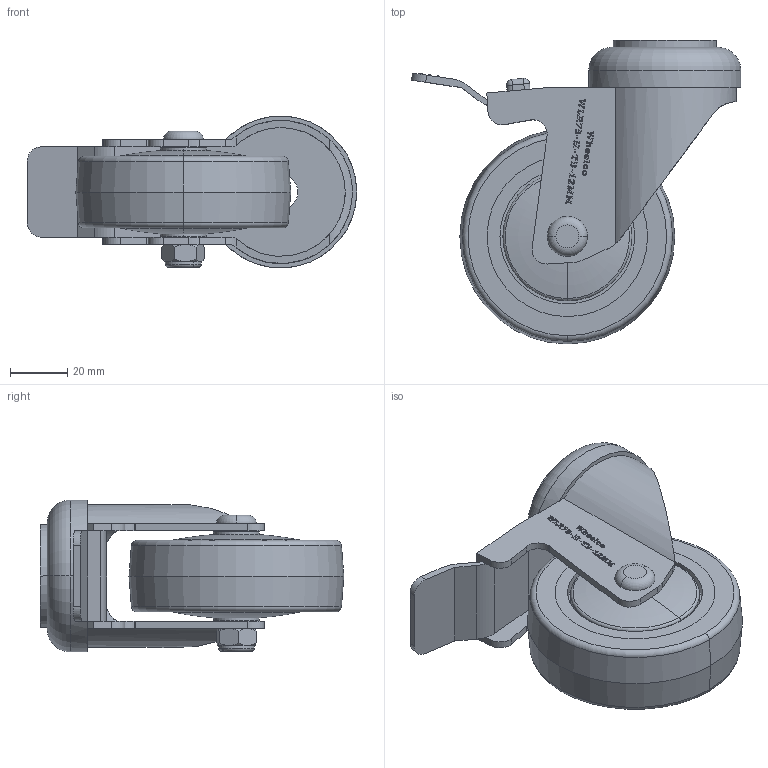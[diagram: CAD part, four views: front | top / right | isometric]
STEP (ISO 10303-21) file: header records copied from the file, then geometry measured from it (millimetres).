
FILE_DESCRIPTION (( 'STEP AP214' ), '1' );
FILE_NAME ('WLR75-H-TB-12MM.step', '2024-01-15T01:49:46', ( '' ), ( '' ), 'SwSTEP 2.0', 'SolidWorks 2022', '' );
FILE_SCHEMA (( 'AUTOMOTIVE_DESIGN' ));
Length unit declared in the file: millimetre
Products named in the file (5): WL75-H-TB-12MM; WLR75; WL bolt 50mm-8mm dia; WLR75-H-TB-12MM; M8Nyloc
Assembly tree (4 placements, depth 2):
  WLR75-H-TB-12MM
    WL bolt 50mm-8mm dia
    M8Nyloc
    WL75-H-TB-12MM
    WLR75
Bounding box: 114.95 x 106 x 53 mm (x, y, z)
Volume: 167354.5 mm3; surface area: 43503.4 mm2
Topology: 4 solids, 4 shells, 675 faces, 1832 edges, 1203 vertices
Faces by surface type: plane 389, cylinder 124, bspline 119, torus 18, cone 18, sphere 7
Entity records: 30381 total; most frequent: CARTESIAN_POINT 13835, ORIENTED_EDGE 3652, DIRECTION 2793, EDGE_CURVE 1826, VECTOR 1249, LINE 1249, VERTEX_POINT 1201, AXIS2_PLACEMENT_3D 772
